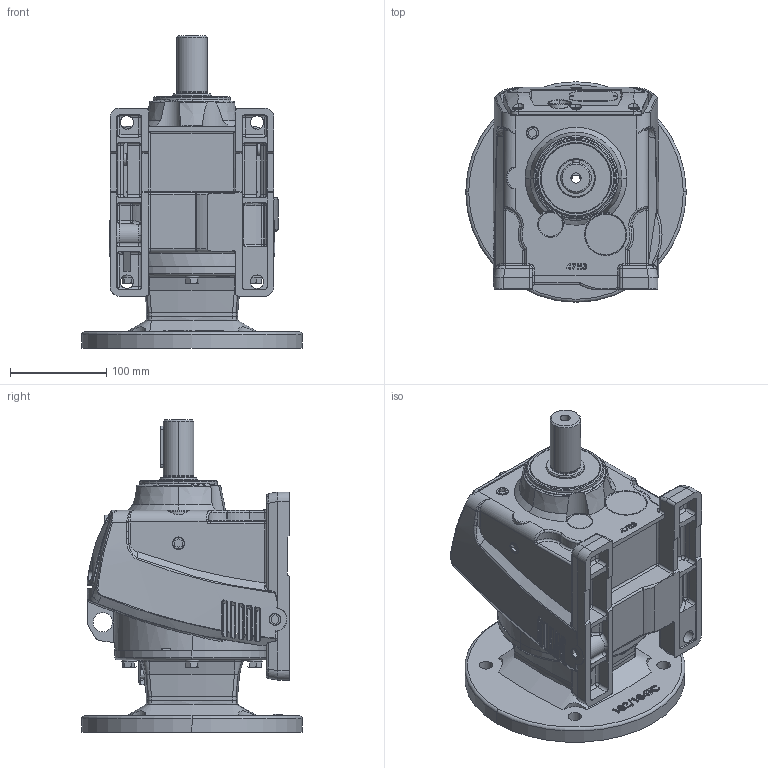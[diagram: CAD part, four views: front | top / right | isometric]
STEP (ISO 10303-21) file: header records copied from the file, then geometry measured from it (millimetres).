
FILE_DESCRIPTION (( 'STEP AP203' ), '1' );
FILE_NAME ('WINL47-182-4TC.STEP', '2013-09-26T09:11:01', ( 'User' ), ( 'Chenta' ), 'SwSTEP 2.0', 'SolidWorks 2011', '' );
FILE_SCHEMA (( 'CONFIG_CONTROL_DESIGN' ));
Products named in the file (1): WINL47-182-4TC
Bounding box: 228.6 x 228.6 x 324 mm (x, y, z)
Surface area: 386097.8 mm2 (no closed solid volume)
Topology: 0 solids, 33 shells, 1263 faces, 3659 edges, 2353 vertices
Faces by surface type: plane 398, bspline 339, cylinder 328, cone 84, torus 71, sphere 43
Entity records: 59044 total; most frequent: CARTESIAN_POINT 29016, ORIENTED_EDGE 6522, DIRECTION 5407, EDGE_CURVE 3623, VERTEX_POINT 2351, AXIS2_PLACEMENT_3D 1979, VECTOR 1449, LINE 1449
